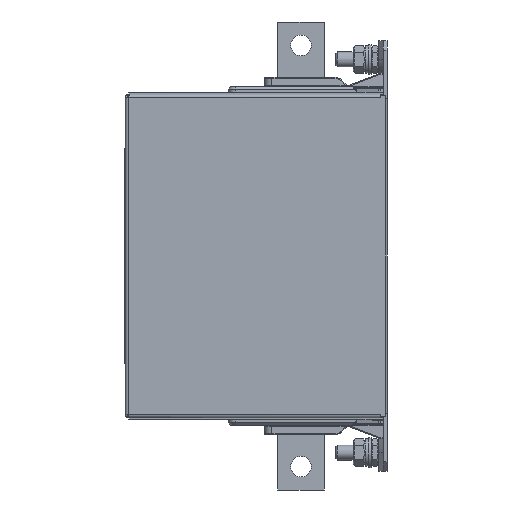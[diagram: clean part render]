
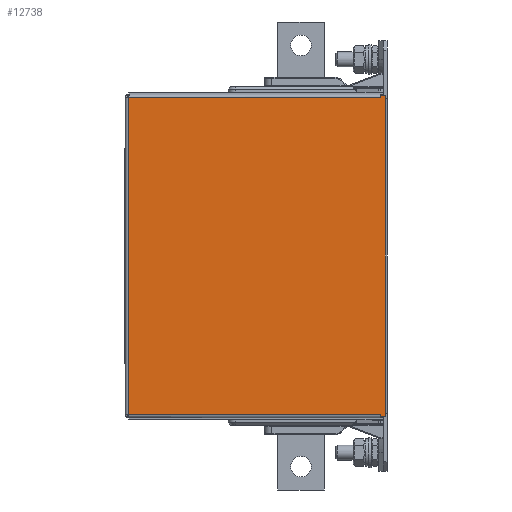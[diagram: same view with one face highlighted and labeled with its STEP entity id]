
A CAD part, left-side view. The second image highlights one B-rep face of the part: STEP entity #12738.
In plain terms, the highlighted planar face has unit normal (-1, 0, 0).
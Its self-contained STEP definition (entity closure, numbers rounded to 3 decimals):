
#12635=CARTESIAN_POINT('',(-105.,128.205,84.695));
#12636=DIRECTION('',(-1.0,0.0,0.0));
#12637=DIRECTION('',(0.0,-1.0,0.0));
#12638=AXIS2_PLACEMENT_3D('',#12635,#12636,#12637);
#12639=PLANE('',#12638);
#12640=CARTESIAN_POINT('',(-105.,3.49,-85.5));
#12641=VERTEX_POINT('',#12640);
#12642=CARTESIAN_POINT('',(-105.,1.,-85.5));
#12643=VERTEX_POINT('',#12642);
#12644=CARTESIAN_POINT('',(-105.,3.49,-85.5));
#12645=DIRECTION('',(0.0,-1.0,0.0));
#12646=VECTOR('',#12645,2.49);
#12647=LINE('',#12644,#12646);
#12648=EDGE_CURVE('',#12641,#12643,#12647,.T.);
#12649=ORIENTED_EDGE('',*,*,#12648,.T.);
#12650=CARTESIAN_POINT('',(-105.,1.,85.5));
#12651=VERTEX_POINT('',#12650);
#12652=CARTESIAN_POINT('',(-105.,1.,85.5));
#12653=DIRECTION('',(0.0,0.0,-1.0));
#12654=VECTOR('',#12653,171.);
#12655=LINE('',#12652,#12654);
#12656=EDGE_CURVE('',#12651,#12643,#12655,.T.);
#12657=ORIENTED_EDGE('',*,*,#12656,.F.);
#12658=CARTESIAN_POINT('',(-105.,3.49,85.5));
#12659=VERTEX_POINT('',#12658);
#12660=CARTESIAN_POINT('',(-105.,1.,85.5));
#12661=DIRECTION('',(0.0,1.0,0.0));
#12662=VECTOR('',#12661,2.49);
#12663=LINE('',#12660,#12662);
#12664=EDGE_CURVE('',#12651,#12659,#12663,.T.);
#12665=ORIENTED_EDGE('',*,*,#12664,.T.);
#12666=CARTESIAN_POINT('',(-105.,3.49,84.69));
#12667=VERTEX_POINT('',#12666);
#12668=CARTESIAN_POINT('',(-105.,3.49,85.5));
#12669=DIRECTION('',(0.0,0.0,-1.0));
#12670=VECTOR('',#12669,0.81);
#12671=LINE('',#12668,#12670);
#12672=EDGE_CURVE('',#12659,#12667,#12671,.T.);
#12673=ORIENTED_EDGE('',*,*,#12672,.T.);
#12674=CARTESIAN_POINT('',(-105.,3.5,84.69));
#12675=VERTEX_POINT('',#12674);
#12676=CARTESIAN_POINT('',(-105.,3.49,84.69));
#12677=DIRECTION('',(0.0,1.0,0.0));
#12678=VECTOR('',#12677,0.01);
#12679=LINE('',#12676,#12678);
#12680=EDGE_CURVE('',#12667,#12675,#12679,.T.);
#12681=ORIENTED_EDGE('',*,*,#12680,.T.);
#12682=CARTESIAN_POINT('',(-105.,3.5,84.7));
#12683=VERTEX_POINT('',#12682);
#12684=CARTESIAN_POINT('',(-105.,3.5,84.69));
#12685=DIRECTION('',(0.0,0.0,1.0));
#12686=VECTOR('',#12685,0.01);
#12687=LINE('',#12684,#12686);
#12688=EDGE_CURVE('',#12675,#12683,#12687,.T.);
#12689=ORIENTED_EDGE('',*,*,#12688,.T.);
#12690=CARTESIAN_POINT('',(-105.,138.2,84.7));
#12691=VERTEX_POINT('',#12690);
#12692=CARTESIAN_POINT('',(-105.0,138.2,84.7));
#12693=DIRECTION('',(0.0,-1.0,0.0));
#12694=VECTOR('',#12693,134.7);
#12695=LINE('',#12692,#12694);
#12696=EDGE_CURVE('',#12691,#12683,#12695,.T.);
#12697=ORIENTED_EDGE('',*,*,#12696,.F.);
#12698=CARTESIAN_POINT('',(-105.,138.2,-84.7));
#12699=VERTEX_POINT('',#12698);
#12700=CARTESIAN_POINT('',(-105.,138.2,84.7));
#12701=DIRECTION('',(0.0,0.0,-1.0));
#12702=VECTOR('',#12701,169.4);
#12703=LINE('',#12700,#12702);
#12704=EDGE_CURVE('',#12691,#12699,#12703,.T.);
#12705=ORIENTED_EDGE('',*,*,#12704,.T.);
#12706=CARTESIAN_POINT('',(-105.,3.5,-84.7));
#12707=VERTEX_POINT('',#12706);
#12708=CARTESIAN_POINT('',(-105.,138.2,-84.7));
#12709=DIRECTION('',(0.0,-1.0,0.0));
#12710=VECTOR('',#12709,134.7);
#12711=LINE('',#12708,#12710);
#12712=EDGE_CURVE('',#12699,#12707,#12711,.T.);
#12713=ORIENTED_EDGE('',*,*,#12712,.T.);
#12714=CARTESIAN_POINT('',(-105.,3.5,-84.69));
#12715=VERTEX_POINT('',#12714);
#12716=CARTESIAN_POINT('',(-105.,3.5,-84.7));
#12717=DIRECTION('',(0.0,0.0,1.0));
#12718=VECTOR('',#12717,0.01);
#12719=LINE('',#12716,#12718);
#12720=EDGE_CURVE('',#12707,#12715,#12719,.T.);
#12721=ORIENTED_EDGE('',*,*,#12720,.T.);
#12722=CARTESIAN_POINT('',(-105.,3.49,-84.69));
#12723=VERTEX_POINT('',#12722);
#12724=CARTESIAN_POINT('',(-105.,3.5,-84.69));
#12725=DIRECTION('',(0.0,-1.0,0.0));
#12726=VECTOR('',#12725,0.01);
#12727=LINE('',#12724,#12726);
#12728=EDGE_CURVE('',#12715,#12723,#12727,.T.);
#12729=ORIENTED_EDGE('',*,*,#12728,.T.);
#12730=CARTESIAN_POINT('',(-105.,3.49,-84.69));
#12731=DIRECTION('',(0.0,0.0,-1.0));
#12732=VECTOR('',#12731,0.81);
#12733=LINE('',#12730,#12732);
#12734=EDGE_CURVE('',#12723,#12641,#12733,.T.);
#12735=ORIENTED_EDGE('',*,*,#12734,.T.);
#12736=EDGE_LOOP('',(#12649,#12657,#12665,#12673,#12681,#12689,#12697,#12705,#12713,#12721,#12729,#12735));
#12737=FACE_OUTER_BOUND('',#12736,.T.);
#12738=ADVANCED_FACE('',(#12737),#12639,.T.);
